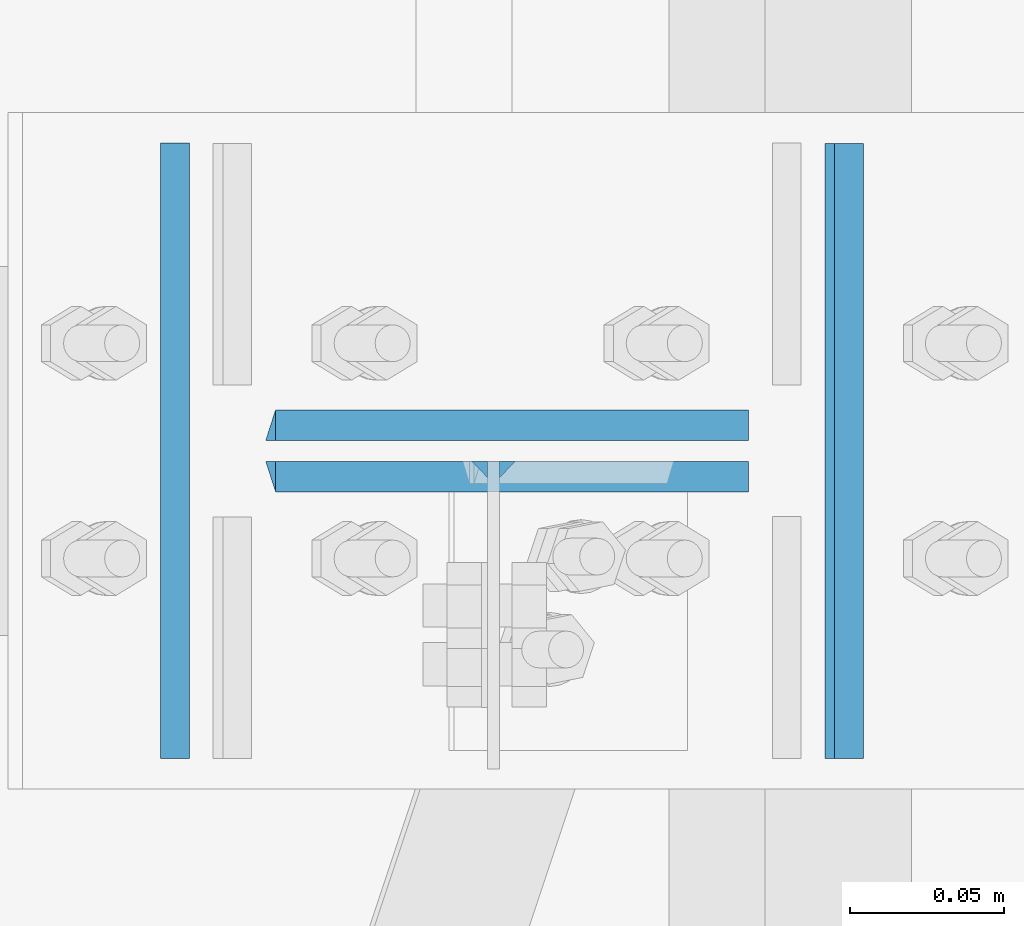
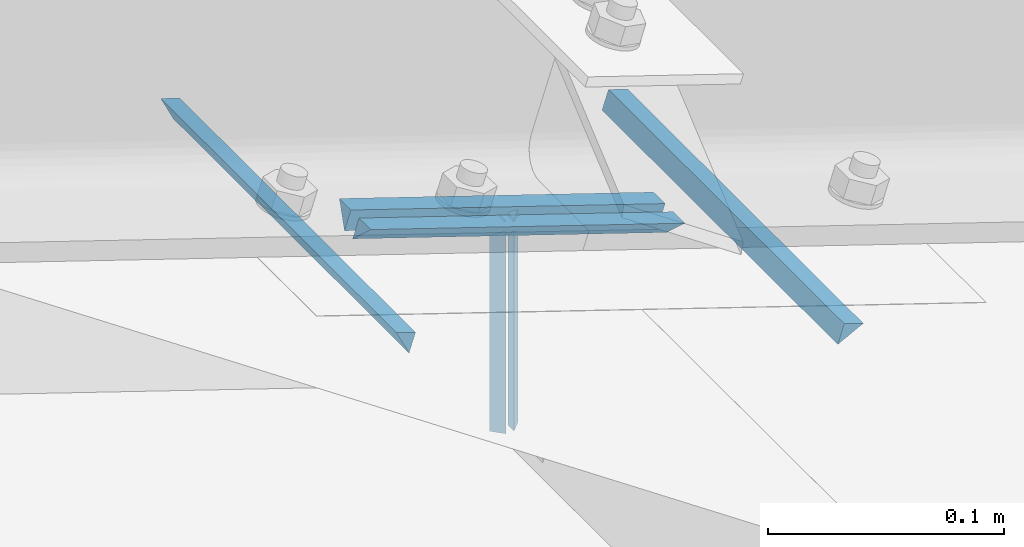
# One storey, part 23 of 53: 10 fasteners.
"""IFC4 building model written with IfcOpenShell, lengths in metres."""

from ifc_helpers import new_model, si_unit, frame, origin_with_axes, place, context, project, spatial, polyline, outline, extrude, type_object, element, save


model = new_model("IFC4")

# Units and contexts
model_context = context("Model", 3, precision=1e-05, world=origin_with_axes())
ifc_project = project(units=[si_unit("LENGTHUNIT", "METRE"), si_unit("AREAUNIT", "SQUARE_METRE"), si_unit("VOLUMEUNIT", "CUBIC_METRE"), si_unit("MASSUNIT", "GRAM", prefix="KILO"), si_unit("TIMEUNIT", "SECOND"), si_unit("PLANEANGLEUNIT", "RADIAN"), si_unit("SOLIDANGLEUNIT", "STERADIAN"), si_unit("THERMODYNAMICTEMPERATUREUNIT", "DEGREE_CELSIUS")], contexts=[model_context])

# Site, building, storey
placement_1 = place(None, origin_with_axes())
site = spatial("IfcSite", under=ifc_project, at=placement_1, Name="Italia", CompositionType="ELEMENT")
building = spatial("IfcBuilding", under=site, at=placement_1, Name="Capannone", CompositionType="ELEMENT")
storey_placement = place(None, frame((0.0, 0.0, 5.550000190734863), z_axis=(0.0, 0.0, 1.0), x_axis=(1.0, 0.0, 0.0)))
storey = spatial("IfcBuildingStorey", under=building, at=storey_placement, Name="Storey 1", CompositionType="ELEMENT", Elevation=5.550000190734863)

# Fasteners
fastener_type_1 = type_object("IfcFastenerType", Name="Collegamenti 0102_0002 0104_0004 0106_0006 0108_0008 0110_0010 0112_0012", PredefinedType="WELD")
placement_2 = place(placement_1, origin_with_axes())
fastener_1_placement = place(placement_2, origin_with_axes())
element("IfcFastener", 1, at=fastener_1_placement, inside=storey, type_object=fastener_type_1, Name="Collegamenti 0102_0002 0104_0004 0106_0006 0108_0008 0110_0010 0112_0012", context=model_context, shape_type="SweptSolid", body=[
    extrude(outline(polyline([(0.0, 0.0), (-0.00619888, -0.0127454), (-0.00937462, -0.00308037), (0.0, 0.0)])), frame((13.8857, 14.9, 5.57182), z_axis=(0.0, 1.0, 0.0), x_axis=(-1.0, 0.0, 0.0)), (0.0, 0.0, 1.0), 0.2001),
])
fastener_type_2 = type_object("IfcFastenerType", Name="Collegamenti 0102_0002 0104_0004 0106_0006 0108_0008 0110_0010 0112_0012", PredefinedType="WELD")
fastener_2_placement = place(placement_2, origin_with_axes())
element("IfcFastener", 2, at=fastener_2_placement, inside=storey, type_object=fastener_type_2, Name="Collegamenti 0102_0002 0104_0004 0106_0006 0108_0008 0110_0010 0112_0012", context=model_context, shape_type="SweptSolid", body=[
    extrude(outline(polyline([(0.0, 0.0), (-0.0125504, -0.00658464), (-0.00937462, 0.00308037), (0.0, 0.0)])), frame((14.1143, 15.1, 5.4967), z_axis=(0.0, -1.0, 0.0), x_axis=(1.0, 0.0, 0.0)), (0.0, 0.0, 1.0), 0.2001),
])
fastener_type_3 = type_object("IfcFastenerType", Name="Collegamenti 0102_0002 0104_0004 0106_0006 0108_0008 0110_0010 0112_0012", PredefinedType="WELD")
fastener_3_placement = place(placement_2, origin_with_axes())
element("IfcFastener", 3, at=fastener_3_placement, inside=storey, type_object=fastener_type_3, Name="Collegamenti 0102_0002 0104_0004 0106_0006 0108_0008 0110_0010 0112_0012", context=model_context, shape_type="SweptSolid", body=[
    extrude(outline(polyline([(0.0, 0.0), (-0.00986767, -0.0101738), (-0.00986767, 0.0), (0.0, 0.0)])), frame((13.9231, 15.0133, 5.55954), z_axis=(0.950030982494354, 0.0, -0.312155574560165), x_axis=(0.0, 1.0, 0.0)), (0.0, 0.0, 1.0), 0.161989),
])
fastener_type_4 = type_object("IfcFastenerType", Name="Collegamenti 0102_0002 0104_0004 0106_0006 0108_0008 0110_0010 0112_0012", PredefinedType="WELD")
fastener_4_placement = place(placement_2, origin_with_axes())
element("IfcFastener", 4, at=fastener_4_placement, inside=storey, type_object=fastener_type_4, Name="Collegamenti 0102_0002 0104_0004 0106_0006 0108_0008 0110_0010 0112_0012", context=model_context, shape_type="SweptSolid", body=[
    extrude(outline(polyline([(0.0, 0.0), (-0.00986767, -0.0101738), (-0.00986767, 0.0), (0.0, 0.0)])), frame((14.077, 14.9867, 5.50898), z_axis=(-0.950030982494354, 0.0, 0.312155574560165), x_axis=(0.0, -1.0, 0.0)), (0.0, 0.0, 1.0), 0.161989),
])
fastener_type_5 = type_object("IfcFastenerType", Name="Collegamenti 0102_0002 0104_0004 0106_0006 0108_0008 0110_0010 0112_0012", PredefinedType="WELD")
fastener_5_placement = place(placement_2, origin_with_axes())
element("IfcFastener", 5, at=fastener_5_placement, inside=storey, type_object=fastener_type_5, Name="Collegamenti 0102_0002 0104_0004 0106_0006 0108_0008 0110_0010 0112_0012", context=model_context, shape_type="SweptSolid", body=[
    extrude(outline(polyline([(0.0, 0.0), (-0.00619888, -0.0127454), (-0.00937462, -0.00308037), (0.0, 0.0)])), frame((13.8857, 14.9, 5.57182), z_axis=(0.0, 1.0, 0.0), x_axis=(-1.0, 0.0, 0.0)), (0.0, 0.0, 1.0), 0.2001),
])
fastener_type_6 = type_object("IfcFastenerType", Name="Collegamenti 0102_0002 0104_0004 0106_0006 0108_0008 0110_0010 0112_0012", PredefinedType="WELD")
fastener_6_placement = place(placement_2, origin_with_axes())
element("IfcFastener", 6, at=fastener_6_placement, inside=storey, type_object=fastener_type_6, Name="Collegamenti 0102_0002 0104_0004 0106_0006 0108_0008 0110_0010 0112_0012", context=model_context, shape_type="SweptSolid", body=[
    extrude(outline(polyline([(0.0, 0.0), (-0.0125504, -0.00658464), (-0.00937462, 0.00308037), (0.0, 0.0)])), frame((14.1143, 15.1, 5.4967), z_axis=(0.0, -1.0, 0.0), x_axis=(1.0, 0.0, 0.0)), (0.0, 0.0, 1.0), 0.2001),
])
fastener_type_7 = type_object("IfcFastenerType", Name="Collegamenti 0102_0002 0104_0004 0106_0006 0108_0008 0110_0010 0112_0012", PredefinedType="WELD")
fastener_7_placement = place(placement_2, origin_with_axes())
element("IfcFastener", 7, at=fastener_7_placement, inside=storey, type_object=fastener_type_7, Name="Collegamenti 0102_0002 0104_0004 0106_0006 0108_0008 0110_0010 0112_0012", context=model_context, shape_type="SweptSolid", body=[
    extrude(outline(polyline([(0.0, 0.0), (-0.00986767, -0.0101738), (-0.00986767, 0.0), (0.0, 0.0)])), frame((13.9231, 15.0133, 5.55954), z_axis=(0.950030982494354, 0.0, -0.312155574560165), x_axis=(0.0, 1.0, 0.0)), (0.0, 0.0, 1.0), 0.161989),
])
fastener_type_8 = type_object("IfcFastenerType", Name="Collegamenti 0102_0002 0104_0004 0106_0006 0108_0008 0110_0010 0112_0012", PredefinedType="WELD")
fastener_8_placement = place(placement_2, origin_with_axes())
element("IfcFastener", 8, at=fastener_8_placement, inside=storey, type_object=fastener_type_8, Name="Collegamenti 0102_0002 0104_0004 0106_0006 0108_0008 0110_0010 0112_0012", context=model_context, shape_type="SweptSolid", body=[
    extrude(outline(polyline([(0.0, 0.0), (-0.00986767, -0.0101738), (-0.00986767, 0.0), (0.0, 0.0)])), frame((14.077, 14.9867, 5.50898), z_axis=(-0.950030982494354, 0.0, 0.312155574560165), x_axis=(0.0, -1.0, 0.0)), (0.0, 0.0, 1.0), 0.161989),
])
fastener_type_9 = type_object("IfcFastenerType", Name="Collegamento 0112_0010", PredefinedType="WELD")
fastener_9_placement = place(placement_2, origin_with_axes())
element("IfcFastener", 9, at=fastener_9_placement, inside=storey, type_object=fastener_type_9, Name="Collegamento 0112_0010", context=model_context, shape_type="SweptSolid", body=[
    extrude(outline(polyline([(0.0, 0.0), (-0.00517273, 0.00501728), (0.0, 0.00501728), (0.0, 0.0)])), frame((13.987, 14.9965, 5.53693), z_axis=(0.0, 0.0, -1.0), x_axis=(0.0, 1.0, 0.0)), (0.0, 0.0, 1.0), 0.1101),
])
fastener_type_10 = type_object("IfcFastenerType", Name="Collegamento 0112_0010", PredefinedType="WELD")
fastener_10_placement = place(placement_2, origin_with_axes())
element("IfcFastener", 10, at=fastener_10_placement, inside=storey, type_object=fastener_type_10, Name="Collegamento 0112_0010", context=model_context, shape_type="SweptSolid", body=[
    extrude(outline(polyline([(0.0, 0.0), (-0.00517273, 0.00501728), (0.0, 0.00501728), (0.0, 0.0)])), frame((14.001, 14.9965, 5.42683), z_axis=(0.0, 0.0, 1.0), x_axis=(0.0, 1.0, 0.0)), (0.0, 0.0, 1.0), 0.1101),
])

save(model, "model.ifc")
